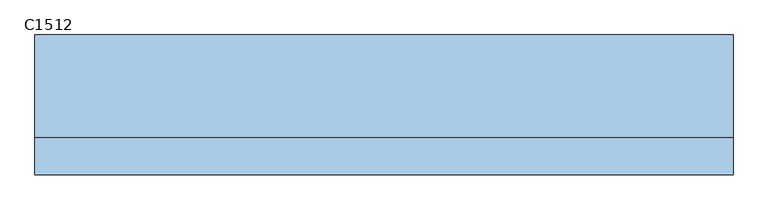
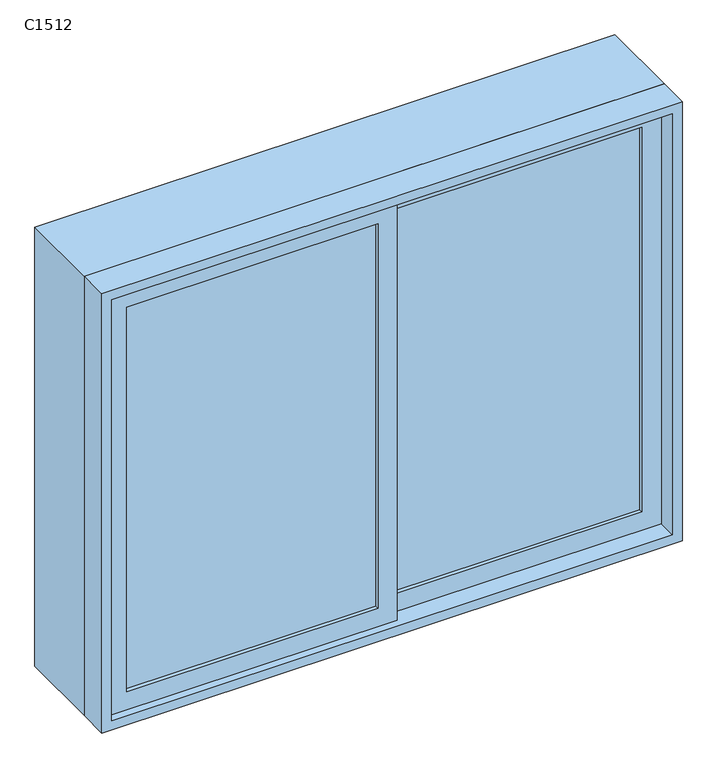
"""IFC4 building model written with IfcOpenShell, lengths in millimetres: window geometry, 推拉窗6 : C1512."""

from ifc_helpers import new_model, si_unit, frame, origin, place, context, project, spatial, polyline, outline, extrude, source, transform, mapped, element, save


def c1512_3f388d70(model_context):
    return source(origin(), model_context, "Body", "SweptSolid", [
        extrude(outline(polyline([(-665.475, -53.1265625), (-665.475, -43.1265625), (-15.475, -43.1265625), (-15.475, -53.1265625), (-665.475, -53.1265625)])), frame((0.0, 0.0, 1875.0), z_axis=(0.0, 0.0, 1.0), x_axis=(1.0, 0.0, 0.0)), (0.0, 0.0, 1.0), 1050.0),
        extrude(outline(polyline([(34.525, -23.1265625), (34.525, -13.1265625), (684.525, -13.1265625), (684.525, -23.1265625), (34.525, -23.1265625)])), frame((0.0, 0.0, 1875.0), z_axis=(0.0, 0.0, 1.0), x_axis=(1.0, 0.0, 0.0)), (0.0, 0.0, 1.0), 1050.0),
        extrude(outline(polyline([(3000.0, -740.475), (1800.0, -740.475), (1800.0, 759.525), (3000.0, 759.525), (3000.0, -740.475)]), holes=[polyline([(2945.0, 709.525), (1855.0, 709.525), (1855.0, -690.475), (2945.0, -690.475), (2945.0, 709.525)])]), frame((0.0, -3.1265625, 0.0), z_axis=(0.0, 1.0, 0.0), x_axis=(0.0, 0.0, 1.0)), (0.0, 0.0, 1.0), 220.0),
        extrude(outline(polyline([(1825.0, 34.525), (2975.0, 34.525), (2975.0, -715.475), (1825.0, -715.475), (1825.0, 34.525)]), holes=[polyline([(1875.0, -15.475), (1875.0, -665.475), (2925.0, -665.475), (2925.0, -15.475), (1875.0, -15.475)])]), frame((0.0, -63.1265625, 0.0), z_axis=(0.0, 1.0, 0.0), x_axis=(0.0, 0.0, 1.0)), (0.0, 0.0, 1.0), 30.0),
        extrude(outline(polyline([(2975.0, -15.475), (1825.0, -15.475), (1825.0, 734.525), (2975.0, 734.525), (2975.0, -15.475)]), holes=[polyline([(2925.0, 34.525), (2925.0, 684.525), (1875.0, 684.525), (1875.0, 34.525), (2925.0, 34.525)])]), frame((0.0, -33.1265625, 0.0), z_axis=(0.0, 1.0, 0.0), x_axis=(0.0, 0.0, 1.0)), (0.0, 0.0, 1.0), 30.0),
        extrude(outline(polyline([(3000.0, -740.475), (1800.0, -740.475), (1800.0, 759.525), (3000.0, 759.525), (3000.0, -740.475)]), holes=[polyline([(1825.0, -715.475), (2975.0, -715.475), (2975.0, 734.525), (1825.0, 734.525), (1825.0, -715.475)])]), frame((0.0, -83.1265625, 0.0), z_axis=(0.0, 1.0, 0.0), x_axis=(0.0, 0.0, 1.0)), (0.0, 0.0, 1.0), 80.0),
    ])


if __name__ == "__main__":
    model = new_model("IFC4")
    model_context = context("Model", 3, world=origin())
    ifc_project = project(units=[si_unit("LENGTHUNIT", "METRE", prefix="MILLI")], contexts=[model_context])
    site = spatial("IfcSite", under=ifc_project)
    building = spatial("IfcBuilding", under=site)
    placement = place(None, origin())
    c1512_shape = c1512_3f388d70(model_context)
    element("IfcWindow", 1, ObjectType="推拉窗6 : C1512", at=placement, inside=building, context=model_context, shape_type="MappedRepresentation", body=[
        mapped(c1512_shape, transform((0.0, 0.0, 0.0), x_axis=(1.0, 0.0, 0.0), y_axis=(0.0, 1.0, 0.0), z_axis=(0.0, 0.0, 1.0))),
    ])
    save(model, "model.ifc")
